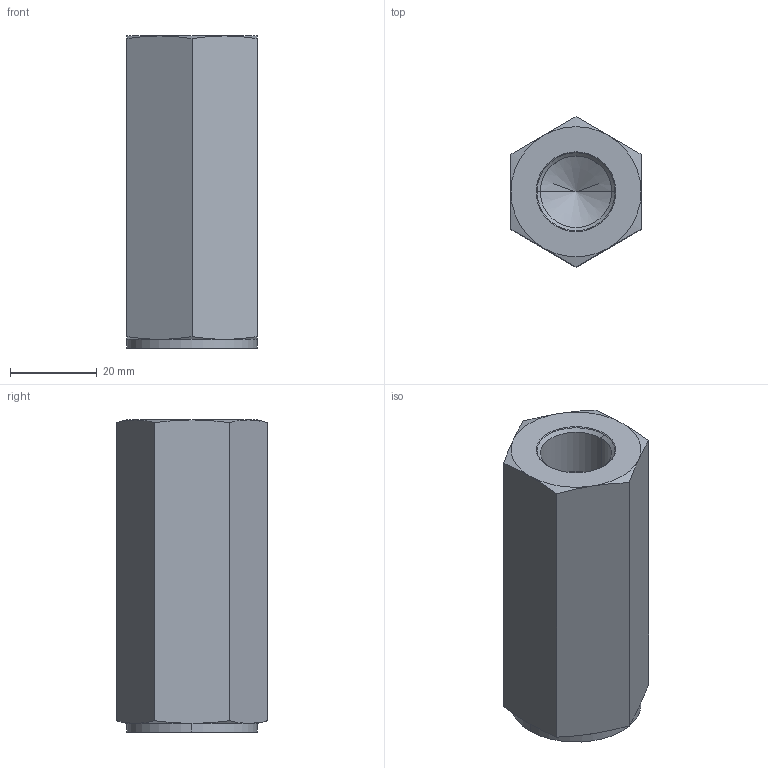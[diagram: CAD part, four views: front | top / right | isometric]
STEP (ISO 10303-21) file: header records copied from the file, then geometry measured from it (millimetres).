
FILE_DESCRIPTION((''),'2;1');
FILE_NAME('VJS3_10_005_M1_000_285076','2022-10-13T',('l.soukupova'),(''),'PRO/ENGINEER BY PARAMETRIC TECHNOLOGY CORPORATION, 2015440','PRO/ENGINEER BY PARAMETRIC TECHNOLOGY CORPORATION, 2015440','');
FILE_SCHEMA(('AUTOMOTIVE_DESIGN { 1 0 10303 214 1 1 1 1 }'));
Length unit declared in the file: millimetre
Products named in the file (1): VJS3_10_005_M1_000_285076
Bounding box: 30 x 34.64 x 72 mm (x, y, z)
Volume: 48803.8 mm3; surface area: 11964.5 mm2
Topology: 1 solids, 3 shells, 40 faces, 114 edges, 87 vertices
Faces by surface type: cone 20, plane 10, cylinder 10
Entity records: 1959 total; most frequent: CARTESIAN_POINT 501, DIRECTION 212, ORIENTED_EDGE 164, PRESENTATION_STYLE_ASSIGNMENT 122, STYLED_ITEM 122, CURVE_STYLE 119, EDGE_CURVE 86, AXIS2_PLACEMENT_3D 83
